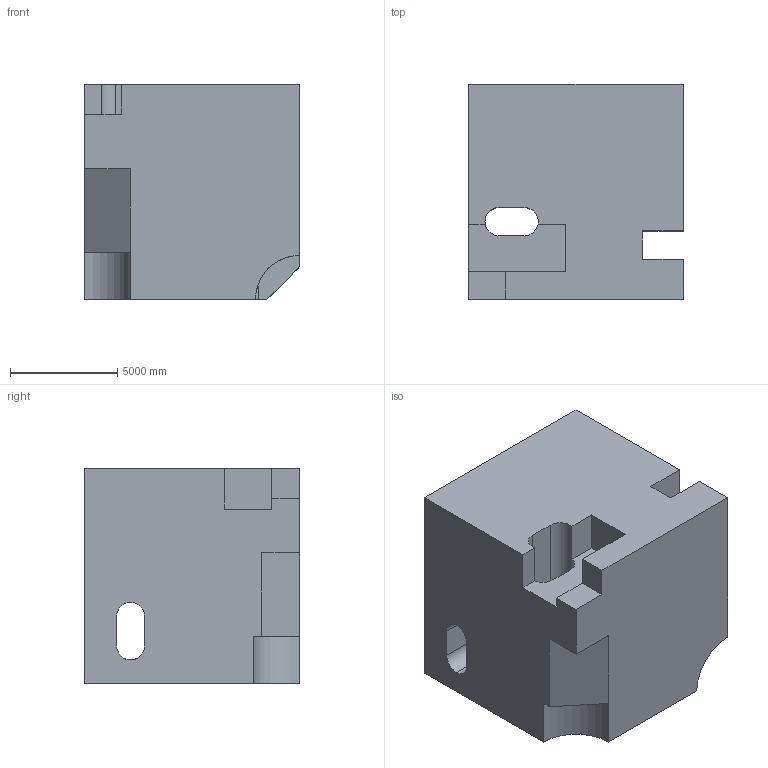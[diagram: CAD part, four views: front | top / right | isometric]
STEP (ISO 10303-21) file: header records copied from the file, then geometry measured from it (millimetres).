
FILE_DESCRIPTION (( 'STEP AP203' ), '1' );
FILE_NAME ('1949.STEP', '2022-08-23T09:51:22', ( 'user' ), ( '' ), 'SwSTEP 2.0', 'SolidWorks 2021', '' );
FILE_SCHEMA (( 'CONFIG_CONTROL_DESIGN' ));
Length unit declared in the file: centimetre
Products named in the file (1): 1949
Bounding box: 10000 x 10000 x 10000 mm (x, y, z)
Volume: 864261516534.8 mm3; surface area: 744329620.8 mm2
Topology: 1 solids, 1 shells, 38 faces, 110 edges, 73 vertices
Faces by surface type: plane 30, cylinder 8
Entity records: 1330 total; most frequent: CARTESIAN_POINT 228, ORIENTED_EDGE 220, DIRECTION 205, EDGE_CURVE 110, LINE 89, VECTOR 89, VERTEX_POINT 73, AXIS2_PLACEMENT_3D 58
